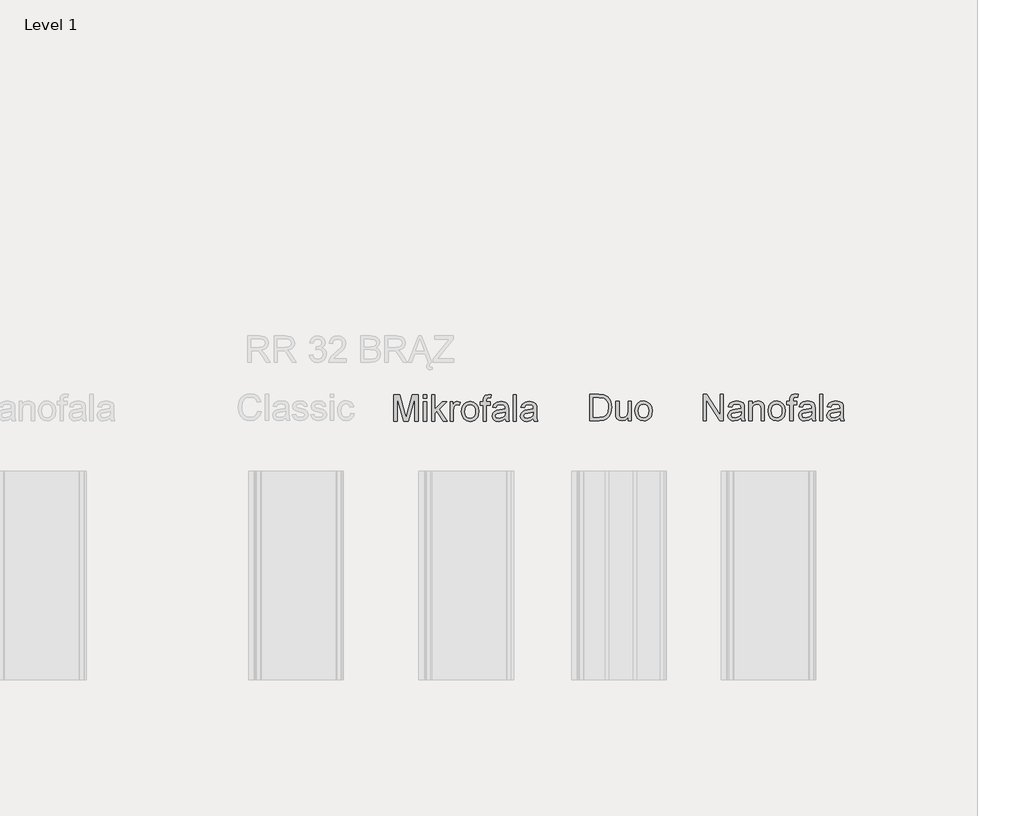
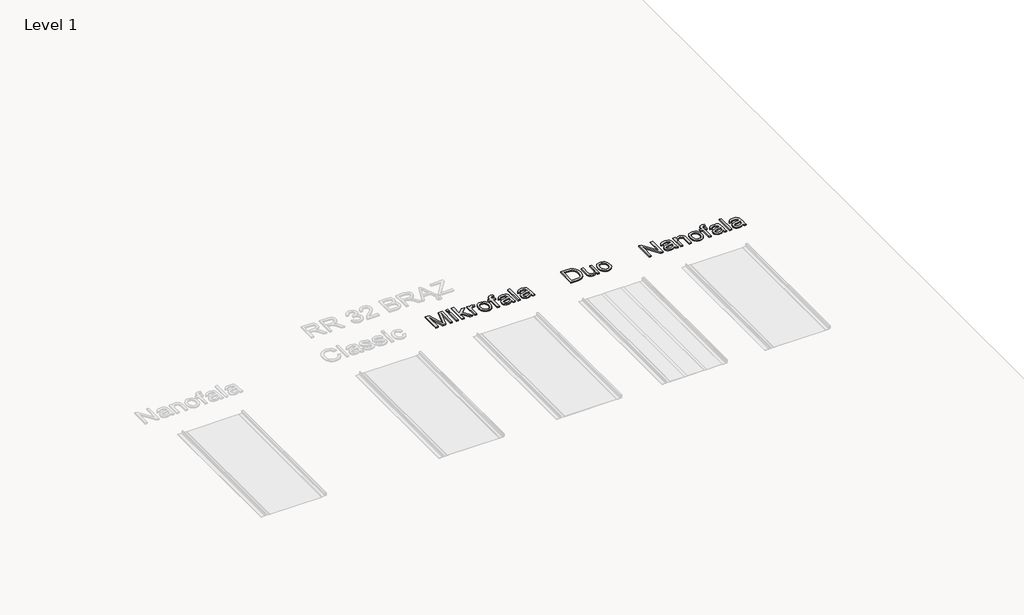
# One storey, part 21 of 22: 3 proxies.
"""IFC4 building model written with IfcOpenShell, lengths in millimetres."""

from ifc_helpers import new_model, si_unit, frame, origin, place, context, project, spatial, polyline, outline, extrude, element, save

model = new_model("IFC4")

# Units and contexts
model_context = context("Model", 3, world=origin())
ifc_project = project(units=[si_unit("LENGTHUNIT", "METRE", prefix="MILLI")], contexts=[model_context])

# Site, building, storey
site = spatial("IfcSite", under=ifc_project)
building = spatial("IfcBuilding", under=site)
storey = spatial("IfcBuildingStorey", under=building, Name="Level 1", Elevation=0.0)

# Proxies
placement = place(None, origin())
element("IfcBuildingElementProxy", 1, Name="150", ObjectType="150", at=placement, inside=storey, context=model_context, shape_type="SweptSolid", body=[
    extrude(outline(polyline([(4704.3345041, 1124.718613), (4704.3345041, 1275.4030782), (4736.6345432, 1275.4030782), (4767.5366308, 1169.1955462), (4773.7906247, 1147.0122619), (4780.5228653, 1171.0349562), (4810.8363417, 1275.4030782), (4843.2467454, 1275.4030782), (4843.2467454, 1124.718613), (4824.4111873, 1124.718613), (4824.4111873, 1256.5675201), (4786.55613, 1124.718613), (4761.0619077, 1124.718613), (4723.1700622, 1256.5675201), (4723.1700622, 1124.718613), (4704.3345041, 1124.718613)])), frame((0.0, 0.0, 600.0), z_axis=(0.0, 0.0, 1.0), x_axis=(1.0, 0.0, 0.0)), (0.0, 0.0, 1.0), 10.0),
    extrude(outline(polyline([(4873.8545274, 1256.5675201), (4873.8545274, 1275.4030782), (4892.6900856, 1275.4030782), (4892.6900856, 1256.5675201), (4873.8545274, 1256.5675201)])), frame((0.0, 0.0, 600.0), z_axis=(0.0, 0.0, 1.0), x_axis=(1.0, 0.0, 0.0)), (0.0, 0.0, 1.0), 10.0),
    extrude(outline(polyline([(4873.8545274, 1124.718613), (4873.8545274, 1235.3775171), (4892.6900856, 1235.3775171), (4892.6900856, 1124.718613), (4873.8545274, 1124.718613)])), frame((0.0, 0.0, 600.0), z_axis=(0.0, 0.0, 1.0), x_axis=(1.0, 0.0, 0.0)), (0.0, 0.0, 1.0), 10.0),
    extrude(outline(polyline([(4920.9434228, 1124.718613), (4920.9434228, 1275.4030782), (4939.778981, 1275.4030782), (4939.778981, 1194.4322511), (4982.011834, 1235.3775171), (5008.0578793, 1235.3775171), (4965.2732032, 1193.9172163), (5010.412324, 1124.718613), (4988.4129807, 1124.718613), (4951.771934, 1180.8206173), (4939.778981, 1169.158758), (4939.778981, 1124.718613), (4920.9434228, 1124.718613)])), frame((0.0, 0.0, 600.0), z_axis=(0.0, 0.0, 1.0), x_axis=(1.0, 0.0, 0.0)), (0.0, 0.0, 1.0), 10.0),
    extrude(outline(polyline([(5026.8934374, 1124.718613), (5026.8934374, 1235.3775171), (5043.3745508, 1235.3775171), (5043.3745508, 1219.0067684), (5055.0731983, 1234.0899302), (5066.8454221, 1237.7319619), (5085.7545567, 1231.9194264), (5079.4637745, 1215.0336428), (5066.2200227, 1218.8964038), (5055.5698389, 1215.1807956), (5048.7824161, 1204.8800997), (5045.7289956, 1182.8807564), (5045.7289956, 1124.718613), (5026.8934374, 1124.718613)])), frame((0.0, 0.0, 600.0), z_axis=(0.0, 0.0, 1.0), x_axis=(1.0, 0.0, 0.0)), (0.0, 0.0, 1.0), 10.0),
    extrude(outline(polyline([(5092.817891, 1180.0480651), (5096.8921841, 1206.7287068), (5109.1150633, 1225.4814915), (5124.2166192, 1234.6693443), (5142.2980193, 1237.7319619), (5162.0854721, 1234.0025582), (5177.8906023, 1222.814347), (5188.251079, 1205.0502452), (5191.7045713, 1181.5931694), (5190.177861, 1162.5644732), (5185.5977301, 1148.0791197), (5178.097536, 1137.2311993), (5167.8106357, 1129.1148028), (5155.5923549, 1124.0518269), (5142.2980193, 1122.3641682), (5122.2714432, 1126.0797764), (5106.4847071, 1137.2266008), (5096.234595, 1155.3631832), (5092.817891, 1180.0480651)]), holes=[polyline([(5111.6534491, 1180.0848533), (5113.8331499, 1163.0381213), (5120.3722524, 1150.8934169), (5130.2130958, 1143.623149), (5142.2980193, 1141.1997264), (5154.3277606, 1143.6369446), (5164.1502098, 1150.9485992), (5170.6893123, 1163.254252), (5172.8690131, 1180.6734645), (5170.6755167, 1197.2235557), (5164.0950275, 1209.2027132), (5154.2587827, 1216.4729811), (5142.2980193, 1218.8964038), (5130.2130958, 1216.4821782), (5120.3722524, 1209.2395014), (5113.8331499, 1197.1223882), (5111.6534491, 1180.0848533)])]), frame((0.0, 0.0, 600.0), z_axis=(0.0, 0.0, 1.0), x_axis=(1.0, 0.0, 0.0)), (0.0, 0.0, 1.0), 10.0),
    extrude(outline(polyline([(5217.6034637, 1124.718613), (5217.6034637, 1216.541959), (5201.1223503, 1216.541959), (5201.1223503, 1235.3775171), (5217.6034637, 1235.3775171), (5217.6034637, 1246.5243416), (5219.5900265, 1262.2329028), (5229.2285348, 1273.4533036), (5248.2112457, 1277.757523), (5265.3913349, 1275.6973838), (5262.6322199, 1258.039048), (5251.7797011, 1258.9219648), (5239.9155067, 1255.7949679), (5236.4390219, 1244.1331086), (5236.4390219, 1235.3775171), (5257.6290248, 1235.3775171), (5257.6290248, 1216.541959), (5236.4390219, 1216.541959), (5236.4390219, 1124.718613), (5217.6034637, 1124.718613)])), frame((0.0, 0.0, 600.0), z_axis=(0.0, 0.0, 1.0), x_axis=(1.0, 0.0, 0.0)), (0.0, 0.0, 1.0), 10.0),
    extrude(outline(polyline([(5344.7434813, 1138.8452816), (5326.4781402, 1126.0797764), (5306.2998128, 1122.3641682), (5290.5590619, 1124.5990513), (5278.9477864, 1131.3037007), (5271.7878831, 1141.4848349), (5269.4012486, 1154.1491726), (5273.0064922, 1169.0483934), (5282.4794536, 1179.8641241), (5295.6680231, 1186.0445416), (5311.9651955, 1188.8772329), (5344.6331167, 1195.3519561), (5344.7434813, 1199.5458108), (5343.4466972, 1207.9519144), (5339.5563451, 1213.4517502), (5330.8559359, 1217.5352404), (5318.7342242, 1218.8964038), (5299.6779368, 1215.2727661), (5290.5912516, 1202.4152904), (5271.7556934, 1204.7697351), (5279.9042796, 1223.1638349), (5296.3118166, 1233.9427774), (5321.1622454, 1237.7319619), (5343.9893232, 1234.3842357), (5356.8835871, 1225.9781322), (5362.6593344, 1213.1942328), (5363.5790394, 1196.7131194), (5363.5790394, 1173.2790364), (5364.5355326, 1140.5559329), (5368.2879289, 1124.718613), (5349.4523708, 1124.718613), (5344.7434813, 1138.8452816)]), holes=[polyline([(5344.7434813, 1176.5163979), (5314.3564285, 1170.7406506), (5298.1512266, 1167.68723), (5290.8119808, 1162.7208231), (5288.2368068, 1155.4735478), (5293.8470072, 1145.2832165), (5310.3097265, 1141.1997264), (5329.3660139, 1145.7062808), (5341.6532725, 1156.613982), (5344.6331167, 1171.182109), (5344.7434813, 1176.5163979)])]), frame((0.0, 0.0, 600.0), z_axis=(0.0, 0.0, 1.0), x_axis=(1.0, 0.0, 0.0)), (0.0, 0.0, 1.0), 10.0),
    extrude(outline(polyline([(5389.4779319, 1124.718613), (5389.4779319, 1275.4030782), (5408.31349, 1275.4030782), (5408.31349, 1124.718613), (5389.4779319, 1124.718613)])), frame((0.0, 0.0, 600.0), z_axis=(0.0, 0.0, 1.0), x_axis=(1.0, 0.0, 0.0)), (0.0, 0.0, 1.0), 10.0),
    extrude(outline(polyline([(5507.2001703, 1138.8452816), (5488.9348293, 1126.0797764), (5468.7565018, 1122.3641682), (5453.015751, 1124.5990513), (5441.4044755, 1131.3037007), (5434.2445722, 1141.4848349), (5431.8579377, 1154.1491726), (5435.4631813, 1169.0483934), (5444.9361426, 1179.8641241), (5458.1247122, 1186.0445416), (5474.4218846, 1188.8772329), (5507.0898057, 1195.3519561), (5507.2001703, 1199.5458108), (5505.9033863, 1207.9519144), (5502.0130342, 1213.4517502), (5493.312625, 1217.5352404), (5481.1909133, 1218.8964038), (5462.1346259, 1215.2727661), (5453.0479406, 1202.4152904), (5434.2123825, 1204.7697351), (5442.3609687, 1223.1638349), (5458.7685057, 1233.9427774), (5483.6189344, 1237.7319619), (5506.4460122, 1234.3842357), (5519.3402762, 1225.9781322), (5525.1160235, 1213.1942328), (5526.0357285, 1196.7131194), (5526.0357285, 1173.2790364), (5526.9922217, 1140.5559329), (5530.744618, 1124.718613), (5511.9090599, 1124.718613), (5507.2001703, 1138.8452816)]), holes=[polyline([(5507.2001703, 1176.5163979), (5476.8131175, 1170.7406506), (5460.6079156, 1167.68723), (5453.2686698, 1162.7208231), (5450.6934959, 1155.4735478), (5456.3036963, 1145.2832165), (5472.7664156, 1141.1997264), (5491.8227029, 1145.7062808), (5504.1099616, 1156.613982), (5507.0898057, 1171.182109), (5507.2001703, 1176.5163979)])]), frame((0.0, 0.0, 600.0), z_axis=(0.0, 0.0, 1.0), x_axis=(1.0, 0.0, 0.0)), (0.0, 0.0, 1.0), 10.0),
])
element("IfcBuildingElementProxy", 2, Name="150", ObjectType="150", at=placement, inside=storey, context=model_context, shape_type="SweptSolid", body=[
    extrude(outline(polyline([(5832.4192925, 1127.8407532), (5832.4192925, 1278.5252184), (5884.4010184, 1278.5252184), (5911.2931923, 1276.3547147), (5933.4396884, 1265.5757722), (5943.8599459, 1254.097854), (5951.2819651, 1239.8240325), (5955.7241402, 1223.0302195), (5957.2048653, 1203.9923262), (5953.1949515, 1173.5868793), (5942.8942557, 1151.6427183), (5929.135469, 1137.9759022), (5911.1276454, 1130.4159272), (5886.902616, 1127.8407532), (5832.4192925, 1127.8407532)]), holes=[polyline([(5851.2548507, 1146.6763114), (5884.5849594, 1146.6763114), (5908.8283829, 1149.3986381), (5922.8078987, 1157.0873718), (5934.2674229, 1175.7941713), (5938.3693071, 1204.2866318), (5936.3597517, 1224.8144471), (5930.3310855, 1239.9711853), (5921.4237427, 1250.3822458), (5910.7781575, 1256.6730279), (5884.0699246, 1259.6896603), (5851.2548507, 1259.6896603), (5851.2548507, 1146.6763114)])]), frame((0.0, 0.0, 600.0), z_axis=(0.0, 0.0, 1.0), x_axis=(1.0, 0.0, 0.0)), (0.0, 0.0, 1.0), 10.0),
    extrude(outline(polyline([(6051.382656, 1127.8407532), (6051.382656, 1146.8602524), (6036.630588, 1130.8297944), (6017.3903597, 1125.4863084), (5999.6768416, 1129.2387048), (5987.4631594, 1138.6564839), (5981.8529589, 1152.5256351), (5980.749313, 1170.0368181), (5980.749313, 1238.4996574), (5999.5848711, 1238.4996574), (5999.5848711, 1178.9027741), (6000.7253053, 1159.699334), (6008.1749157, 1148.4237508), (6022.2096138, 1144.3218666), (6037.9365691, 1148.5157213), (6048.3292355, 1159.9384573), (6051.382656, 1180.9261251), (6051.382656, 1238.4996574), (6070.2182142, 1238.4996574), (6070.2182142, 1127.8407532), (6051.382656, 1127.8407532)])), frame((0.0, 0.0, 600.0), z_axis=(0.0, 0.0, 1.0), x_axis=(1.0, 0.0, 0.0)), (0.0, 0.0, 1.0), 10.0),
    extrude(outline(polyline([(6091.4082171, 1183.1702053), (6095.4825102, 1209.850847), (6107.7053895, 1228.6036317), (6122.8069454, 1237.7914845), (6140.8883455, 1240.8541021), (6160.6757983, 1237.1246984), (6176.4809285, 1225.9364872), (6186.8414052, 1208.1723854), (6190.2948974, 1184.7153097), (6188.7681871, 1165.6866135), (6184.1880563, 1151.2012599), (6176.6878621, 1140.3533396), (6166.4009618, 1132.2369431), (6154.1826811, 1127.1739671), (6140.8883455, 1125.4863084), (6120.8617693, 1129.2019166), (6105.0750332, 1140.348741), (6094.8249211, 1158.4853234), (6091.4082171, 1183.1702053)]), holes=[polyline([(6110.2437753, 1183.2069935), (6112.4234761, 1166.1602615), (6118.9625785, 1154.0155572), (6128.8034219, 1146.7452892), (6140.8883455, 1144.3218666), (6152.9180867, 1146.7590848), (6162.740536, 1154.0707395), (6169.2796384, 1166.3763922), (6171.4593393, 1183.7956047), (6169.2658429, 1200.3456959), (6162.6853537, 1212.3248534), (6152.8491088, 1219.5951213), (6140.8883455, 1222.018544), (6128.8034219, 1219.6043184), (6118.9625785, 1212.3616416), (6112.4234761, 1200.2445284), (6110.2437753, 1183.2069935)])]), frame((0.0, 0.0, 600.0), z_axis=(0.0, 0.0, 1.0), x_axis=(1.0, 0.0, 0.0)), (0.0, 0.0, 1.0), 10.0),
])
element("IfcBuildingElementProxy", 3, Name="150", ObjectType="150", at=placement, inside=storey, context=model_context, shape_type="SweptSolid", body=[
    extrude(outline(polyline([(6483.2193428, 1127.8407532), (6483.2193428, 1278.5252184), (6503.3792761, 1278.5252184), (6582.1060231, 1159.147511), (6582.1060231, 1278.5252184), (6600.9415812, 1278.5252184), (6600.9415812, 1127.8407532), (6580.7816479, 1127.8407532), (6502.0549009, 1247.2552488), (6502.0549009, 1127.8407532), (6483.2193428, 1127.8407532)])), frame((0.0, 0.0, 600.0), z_axis=(0.0, 0.0, 1.0), x_axis=(1.0, 0.0, 0.0)), (0.0, 0.0, 1.0), 10.0),
    extrude(outline(polyline([(6702.1827063, 1141.9674218), (6683.9173653, 1129.2019166), (6663.7390378, 1125.4863084), (6647.998287, 1127.7211916), (6636.3870115, 1134.4258409), (6629.2271081, 1144.6069751), (6626.8404737, 1157.2713128), (6630.4457173, 1172.1705336), (6639.9186786, 1182.9862643), (6653.1072482, 1189.1666818), (6669.4044205, 1191.9993732), (6702.0723417, 1198.4740963), (6702.1827063, 1202.667951), (6700.8859223, 1211.0740546), (6696.9955702, 1216.5738904), (6688.295161, 1220.6573806), (6676.1734493, 1222.018544), (6657.1171619, 1218.3949063), (6648.0304766, 1205.5374306), (6629.1949185, 1207.8918754), (6637.3435047, 1226.2859751), (6653.7510417, 1237.0649176), (6678.6014704, 1240.8541021), (6701.4285482, 1237.506376), (6714.3228122, 1229.1002724), (6720.0985595, 1216.316373), (6721.0182645, 1199.8352597), (6721.0182645, 1176.4011766), (6721.9747577, 1143.6780731), (6725.727154, 1127.8407532), (6706.8915959, 1127.8407532), (6702.1827063, 1141.9674218)]), holes=[polyline([(6702.1827063, 1179.6385381), (6671.7956535, 1173.8627908), (6655.5904516, 1170.8093702), (6648.2512058, 1165.8429633), (6645.6760319, 1158.595688), (6651.2862323, 1148.4053567), (6667.7489516, 1144.3218666), (6686.8052389, 1148.828421), (6699.0924976, 1159.7361222), (6702.0723417, 1174.3042492), (6702.1827063, 1179.6385381)])]), frame((0.0, 0.0, 600.0), z_axis=(0.0, 0.0, 1.0), x_axis=(1.0, 0.0, 0.0)), (0.0, 0.0, 1.0), 10.0),
    extrude(outline(polyline([(6746.9171569, 1127.8407532), (6746.9171569, 1238.4996574), (6765.7527151, 1238.4996574), (6765.7527151, 1223.0486136), (6780.1552952, 1236.40273), (6799.8185878, 1240.8541021), (6817.6056823, 1237.2672527), (6829.7457881, 1227.8494736), (6835.3927768, 1213.9987165), (6836.3860582, 1195.7885577), (6836.3860582, 1127.8407532), (6817.5505, 1127.8407532), (6817.5505, 1193.250172), (6815.3799962, 1209.9152263), (6807.7096566, 1218.7260001), (6794.7786045, 1222.018544), (6783.7467432, 1220.1699369), (6774.3427597, 1214.6241159), (6767.9002262, 1203.9095528), (6765.7527151, 1186.5547196), (6765.7527151, 1127.8407532), (6746.9171569, 1127.8407532)])), frame((0.0, 0.0, 600.0), z_axis=(0.0, 0.0, 1.0), x_axis=(1.0, 0.0, 0.0)), (0.0, 0.0, 1.0), 10.0),
    extrude(outline(polyline([(6857.5760611, 1183.1702053), (6861.6503542, 1209.850847), (6873.8732335, 1228.6036317), (6888.9747894, 1237.7914845), (6907.0561894, 1240.8541021), (6926.8436422, 1237.1246984), (6942.6487725, 1225.9364872), (6953.0092492, 1208.1723854), (6956.4627414, 1184.7153097), (6954.9360311, 1165.6866135), (6950.3559003, 1151.2012599), (6942.8557061, 1140.3533396), (6932.5688058, 1132.2369431), (6920.350525, 1127.1739671), (6907.0561894, 1125.4863084), (6887.0296133, 1129.2019166), (6871.2428772, 1140.348741), (6860.9927651, 1158.4853234), (6857.5760611, 1183.1702053)]), holes=[polyline([(6876.4116192, 1183.2069935), (6878.5913201, 1166.1602615), (6885.1304225, 1154.0155572), (6894.9712659, 1146.7452892), (6907.0561894, 1144.3218666), (6919.0859307, 1146.7590848), (6928.9083799, 1154.0707395), (6935.4474824, 1166.3763922), (6937.6271832, 1183.7956047), (6935.4336868, 1200.3456959), (6928.8531976, 1212.3248534), (6919.0169528, 1219.5951213), (6907.0561894, 1222.018544), (6894.9712659, 1219.6043184), (6885.1304225, 1212.3616416), (6878.5913201, 1200.2445284), (6876.4116192, 1183.2069935)])]), frame((0.0, 0.0, 600.0), z_axis=(0.0, 0.0, 1.0), x_axis=(1.0, 0.0, 0.0)), (0.0, 0.0, 1.0), 10.0),
    extrude(outline(polyline([(6982.3616338, 1127.8407532), (6982.3616338, 1219.6640992), (6965.8805205, 1219.6640992), (6965.8805205, 1238.4996574), (6982.3616338, 1238.4996574), (6982.3616338, 1249.6464818), (6984.3481966, 1265.355043), (6993.9867049, 1276.5754439), (7012.9694158, 1280.8796632), (7030.149505, 1278.819524), (7027.3903901, 1261.1611883), (7016.5378712, 1262.044105), (7004.6736769, 1258.9171081), (7001.197192, 1247.2552488), (7001.197192, 1238.4996574), (7022.3871949, 1238.4996574), (7022.3871949, 1219.6640992), (7001.197192, 1219.6640992), (7001.197192, 1127.8407532), (6982.3616338, 1127.8407532)])), frame((0.0, 0.0, 600.0), z_axis=(0.0, 0.0, 1.0), x_axis=(1.0, 0.0, 0.0)), (0.0, 0.0, 1.0), 10.0),
    extrude(outline(polyline([(7109.5016514, 1141.9674218), (7091.2363103, 1129.2019166), (7071.0579829, 1125.4863084), (7055.317232, 1127.7211916), (7043.7059565, 1134.4258409), (7036.5460532, 1144.6069751), (7034.1594188, 1157.2713128), (7037.7646623, 1172.1705336), (7047.2376237, 1182.9862643), (7060.4261932, 1189.1666818), (7076.7233656, 1191.9993732), (7109.3912868, 1198.4740963), (7109.5016514, 1202.667951), (7108.2048673, 1211.0740546), (7104.3145152, 1216.5738904), (7095.6141061, 1220.6573806), (7083.4923943, 1222.018544), (7064.436107, 1218.3949063), (7055.3494217, 1205.5374306), (7036.5138635, 1207.8918754), (7044.6624497, 1226.2859751), (7061.0699867, 1237.0649176), (7085.9204155, 1240.8541021), (7108.7474933, 1237.506376), (7121.6417572, 1229.1002724), (7127.4175045, 1216.316373), (7128.3372095, 1199.8352597), (7128.3372095, 1176.4011766), (7129.2937027, 1143.6780731), (7133.0460991, 1127.8407532), (7114.2105409, 1127.8407532), (7109.5016514, 1141.9674218)]), holes=[polyline([(7109.5016514, 1179.6385381), (7079.1145986, 1173.8627908), (7062.9093967, 1170.8093702), (7055.5701509, 1165.8429633), (7052.9949769, 1158.595688), (7058.6051773, 1148.4053567), (7075.0678966, 1144.3218666), (7094.124184, 1148.828421), (7106.4114426, 1159.7361222), (7109.3912868, 1174.3042492), (7109.5016514, 1179.6385381)])]), frame((0.0, 0.0, 600.0), z_axis=(0.0, 0.0, 1.0), x_axis=(1.0, 0.0, 0.0)), (0.0, 0.0, 1.0), 10.0),
    extrude(outline(polyline([(7154.236102, 1127.8407532), (7154.236102, 1278.5252184), (7173.0716601, 1278.5252184), (7173.0716601, 1127.8407532), (7154.236102, 1127.8407532)])), frame((0.0, 0.0, 600.0), z_axis=(0.0, 0.0, 1.0), x_axis=(1.0, 0.0, 0.0)), (0.0, 0.0, 1.0), 10.0),
    extrude(outline(polyline([(7271.9583404, 1141.9674218), (7253.6929994, 1129.2019166), (7233.514672, 1125.4863084), (7217.7739211, 1127.7211916), (7206.1626456, 1134.4258409), (7199.0027423, 1144.6069751), (7196.6161078, 1157.2713128), (7200.2213514, 1172.1705336), (7209.6943128, 1182.9862643), (7222.8828823, 1189.1666818), (7239.1800547, 1191.9993732), (7271.8479758, 1198.4740963), (7271.9583404, 1202.667951), (7270.6615564, 1211.0740546), (7266.7712043, 1216.5738904), (7258.0707951, 1220.6573806), (7245.9490834, 1222.018544), (7226.892796, 1218.3949063), (7217.8061108, 1205.5374306), (7198.9705526, 1207.8918754), (7207.1191388, 1226.2859751), (7223.5266758, 1237.0649176), (7248.3771046, 1240.8541021), (7271.2041824, 1237.506376), (7284.0984463, 1229.1002724), (7289.8741936, 1216.316373), (7290.7938986, 1199.8352597), (7290.7938986, 1176.4011766), (7291.7503918, 1143.6780731), (7295.5027881, 1127.8407532), (7276.66723, 1127.8407532), (7271.9583404, 1141.9674218)]), holes=[polyline([(7271.9583404, 1179.6385381), (7241.5712876, 1173.8627908), (7225.3660858, 1170.8093702), (7218.02684, 1165.8429633), (7215.451666, 1158.595688), (7221.0618664, 1148.4053567), (7237.5245857, 1144.3218666), (7256.580873, 1148.828421), (7268.8681317, 1159.7361222), (7271.8479758, 1174.3042492), (7271.9583404, 1179.6385381)])]), frame((0.0, 0.0, 600.0), z_axis=(0.0, 0.0, 1.0), x_axis=(1.0, 0.0, 0.0)), (0.0, 0.0, 1.0), 10.0),
])

save(model, "model.ifc")
